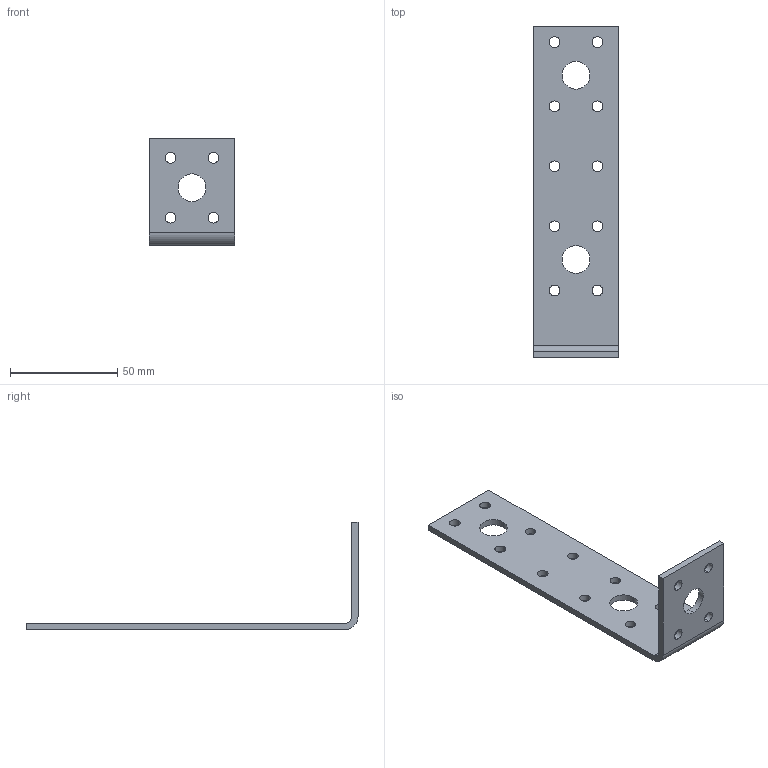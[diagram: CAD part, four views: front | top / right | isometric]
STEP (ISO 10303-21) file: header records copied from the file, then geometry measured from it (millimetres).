
FILE_DESCRIPTION (( 'STEP AP203' ), '1' );
FILE_NAME ('1543.STEP', '2020-02-10T13:34:51', ( '' ), ( '' ), 'SwSTEP 2.0', 'SolidWorks 2013', '' );
FILE_SCHEMA (( 'CONFIG_CONTROL_DESIGN' ));
Length unit declared in the file: millimetre
Products named in the file (1): 1543
Bounding box: 40 x 155 x 50 mm (x, y, z)
Volume: 21989 mm3; surface area: 17127 mm2
Topology: 1 solids, 1 shells, 44 faces, 126 edges, 84 vertices
Faces by surface type: cylinder 36, plane 8
Entity records: 1627 total; most frequent: DIRECTION 288, CARTESIAN_POINT 255, ORIENTED_EDGE 252, EDGE_CURVE 126, AXIS2_PLACEMENT_3D 117, VERTEX_POINT 84, EDGE_LOOP 78, CIRCLE 72
